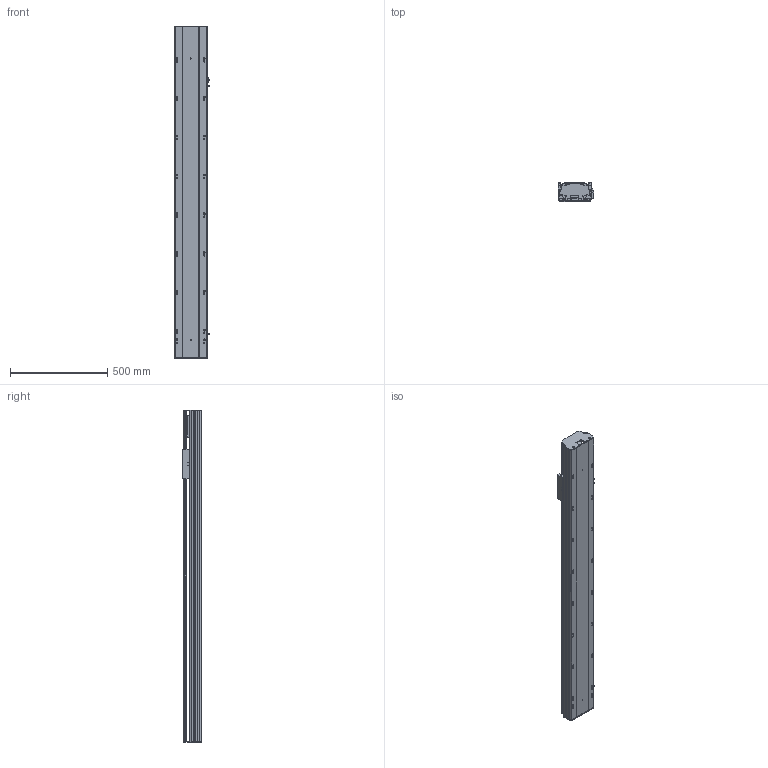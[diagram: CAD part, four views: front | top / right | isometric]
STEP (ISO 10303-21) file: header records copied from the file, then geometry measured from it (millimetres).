
FILE_DESCRIPTION (( 'STEP AP203' ), '1' );
FILE_NAME ('Y170-D10-S1300-M-P400W.STEP', '2020-01-22T13:57:47', ( '微软用户' ), ( '微软中国' ), 'SwSTEP 2.0', 'SolidWorks 2017', '' );
FILE_SCHEMA (( 'CONFIG_CONTROL_DESIGN' ));
Length unit declared in the file: millimetre
Products named in the file (10): san松下电机400不带刹车----; Y170-D10-S1300-M-P400W; Y170-陔遴奻裔-M; YD-Y100-135-新外置传感挡片(通用）; Y100-135俋离換覜ん; 135-盓傅釱-FK15; Y170耜裔--準---; Y170--雄赽釱-梓--; 170--掛极-M; Y170耜裔--準---M
Assembly tree (11 placements, depth 2):
  Y170-D10-S1300-M-P400W
    YD-Y100-135-新外置传感挡片(通用）
    Y100-135俋离換覜ん  x3
    135-盓傅釱-FK15
    Y170耜裔--準---
    Y170--雄赽釱-梓--
    170--掛极-M
    Y170耜裔--準---M
    san松下电机400不带刹车----
    Y170-陔遴奻裔-M
Bounding box: 183.5 x 97 x 1711 mm (x, y, z)
Volume: 7154683.3 mm3; surface area: 2563723.5 mm2
Topology: 11 solids, 11 shells, 821 faces, 2372 edges, 1572 vertices
Faces by surface type: cylinder 435, plane 384, torus 2
Entity records: 27100 total; most frequent: CARTESIAN_POINT 4985, DIRECTION 4462, ORIENTED_EDGE 4408, EDGE_CURVE 2204, AXIS2_PLACEMENT_3D 1593, VERTEX_POINT 1460, VECTOR 1276, LINE 1276
